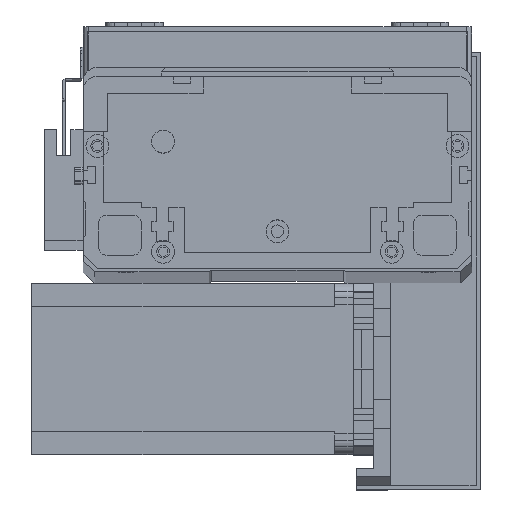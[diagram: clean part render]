
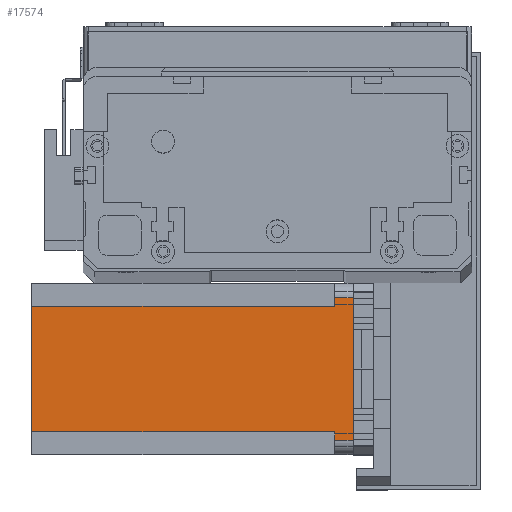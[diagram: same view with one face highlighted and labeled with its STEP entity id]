
A CAD part, top view. The second image highlights one B-rep face of the part: STEP entity #17574.
In plain terms, the highlighted planar face has unit normal (0, 0, 1) as drawn and (0, -1, 0) by its records, which use the part's own axes.
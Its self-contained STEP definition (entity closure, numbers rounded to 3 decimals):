
#52 = VERTEX_POINT ( 'NONE', #11623 ) ;
#204 = DIRECTION ( 'NONE',  ( 1., 0., 0. ) ) ;
#441 = CARTESIAN_POINT ( 'NONE',  ( 5., 0., -112.5 ) ) ;
#1633 = CARTESIAN_POINT ( 'NONE',  ( 5., 0., -6.5 ) ) ;
#1861 = CARTESIAN_POINT ( 'NONE',  ( 0., 0., 0. ) ) ;
#1904 = EDGE_CURVE ( 'NONE', #25725, #20137, #10055, .T. ) ;
#1982 = PLANE ( 'NONE',  #25713 ) ;
#3685 = VECTOR ( 'NONE', #11936, 1000. ) ;
#3847 = LINE ( 'NONE', #27772, #11736 ) ;
#3903 = EDGE_CURVE ( 'NONE', #20137, #8761, #26080, .T. ) ;
#4105 = LINE ( 'NONE', #23084, #16099 ) ;
#4768 = CARTESIAN_POINT ( 'NONE',  ( 55., 0., 0. ) ) ;
#6135 = VERTEX_POINT ( 'NONE', #18374 ) ;
#6378 = CARTESIAN_POINT ( 'NONE',  ( 52., 0., -6.5 ) ) ;
#6596 = DIRECTION ( 'NONE',  ( 1., 0., 0. ) ) ;
#7211 = VECTOR ( 'NONE', #29766, 1000. ) ;
#7225 = CARTESIAN_POINT ( 'NONE',  ( 8., 0., -6.5 ) ) ;
#7432 = ORIENTED_EDGE ( 'NONE', *, *, #1904, .F. ) ;
#8761 = VERTEX_POINT ( 'NONE', #1633 ) ;
#9401 = DIRECTION ( 'NONE',  ( -1., 0., 0. ) ) ;
#9690 = CARTESIAN_POINT ( 'NONE',  ( 0., 0., -112.5 ) ) ;
#9691 = EDGE_CURVE ( 'NONE', #19183, #8761, #10869, .T. ) ;
#10055 = LINE ( 'NONE', #27427, #3685 ) ;
#10311 = CARTESIAN_POINT ( 'NONE',  ( 8., 0., -6.5 ) ) ;
#10366 = ORIENTED_EDGE ( 'NONE', *, *, #28744, .T. ) ;
#10798 = ORIENTED_EDGE ( 'NONE', *, *, #9691, .T. ) ;
#10869 = LINE ( 'NONE', #441, #28709 ) ;
#11049 = FACE_OUTER_BOUND ( 'NONE', #28197, .T. ) ;
#11130 = ORIENTED_EDGE ( 'NONE', *, *, #16395, .T. ) ;
#11623 = CARTESIAN_POINT ( 'NONE',  ( 52., 0., -6.5 ) ) ;
#11736 = VECTOR ( 'NONE', #13916, 1000. ) ;
#11936 = DIRECTION ( 'NONE',  ( 0., 0., 1. ) ) ;
#12047 = ORIENTED_EDGE ( 'NONE', *, *, #22321, .F. ) ;
#13598 = LINE ( 'NONE', #6378, #7211 ) ;
#13739 = VECTOR ( 'NONE', #9401, 1000. ) ;
#13851 = CARTESIAN_POINT ( 'NONE',  ( 52., 0., -112.5 ) ) ;
#13916 = DIRECTION ( 'NONE',  ( 0., 0., 1. ) ) ;
#14057 = DIRECTION ( 'NONE',  ( 0., 0., -1. ) ) ;
#15194 = EDGE_CURVE ( 'NONE', #52, #6135, #13598, .T. ) ;
#15261 = ORIENTED_EDGE ( 'NONE', *, *, #15194, .T. ) ;
#15438 = VECTOR ( 'NONE', #6596, 1000. ) ;
#16099 = VECTOR ( 'NONE', #18512, 1000. ) ;
#16354 = VERTEX_POINT ( 'NONE', #4768 ) ;
#16395 = EDGE_CURVE ( 'NONE', #25725, #25714, #23278, .T. ) ;
#17115 = VECTOR ( 'NONE', #204, 1000. ) ;
#17574 = ADVANCED_FACE ( 'NONE', ( #11049 ), #1982, .T. ) ;
#18374 = CARTESIAN_POINT ( 'NONE',  ( 55., 0., -6.5 ) ) ;
#18512 = DIRECTION ( 'NONE',  ( 0., 0., -1. ) ) ;
#19183 = VERTEX_POINT ( 'NONE', #23159 ) ;
#19772 = EDGE_CURVE ( 'NONE', #19183, #16354, #22389, .T. ) ;
#20137 = VERTEX_POINT ( 'NONE', #10311 ) ;
#22321 = EDGE_CURVE ( 'NONE', #52, #25714, #4105, .T. ) ;
#22389 = LINE ( 'NONE', #1861, #15438 ) ;
#22734 = ORIENTED_EDGE ( 'NONE', *, *, #19772, .F. ) ;
#23084 = CARTESIAN_POINT ( 'NONE',  ( 52., 0., -112.5 ) ) ;
#23159 = CARTESIAN_POINT ( 'NONE',  ( 5., 0., 0. ) ) ;
#23253 = CARTESIAN_POINT ( 'NONE',  ( 8., 0., -112.5 ) ) ;
#23278 = LINE ( 'NONE', #9690, #17115 ) ;
#25713 = AXIS2_PLACEMENT_3D ( 'NONE', #30110, #27903, #14057 ) ;
#25714 = VERTEX_POINT ( 'NONE', #13851 ) ;
#25725 = VERTEX_POINT ( 'NONE', #23253 ) ;
#26080 = LINE ( 'NONE', #7225, #13739 ) ;
#26642 = ORIENTED_EDGE ( 'NONE', *, *, #3903, .F. ) ;
#27427 = CARTESIAN_POINT ( 'NONE',  ( 8., 0., -112.5 ) ) ;
#27772 = CARTESIAN_POINT ( 'NONE',  ( 55., 0., -112.5 ) ) ;
#27903 = DIRECTION ( 'NONE',  ( 0., -1., 0. ) ) ;
#28197 = EDGE_LOOP ( 'NONE', ( #15261, #10366, #22734, #10798, #26642, #7432, #11130, #12047 ) ) ;
#28577 = DIRECTION ( 'NONE',  ( 0., 0., -1. ) ) ;
#28709 = VECTOR ( 'NONE', #28577, 1000. ) ;
#28744 = EDGE_CURVE ( 'NONE', #6135, #16354, #3847, .T. ) ;
#29766 = DIRECTION ( 'NONE',  ( 1., 0., 0. ) ) ;
#30110 = CARTESIAN_POINT ( 'NONE',  ( 0., 0., -112.5 ) ) ;
